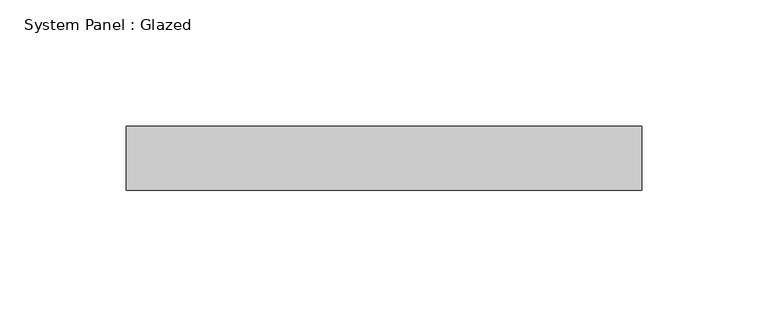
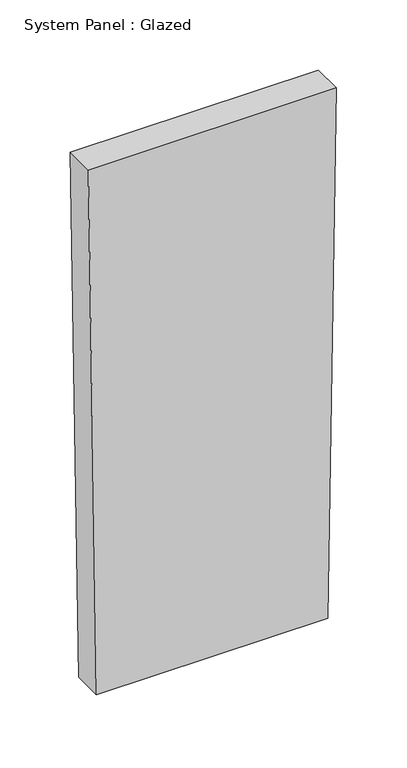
"""IFC4 building model written with IfcOpenShell, lengths in millimetres: plate geometry, System Panel : Glazed."""

from ifc_helpers import new_model, si_unit, frame, origin, place, context, project, spatial, polyline, outline, extrude, source, transform, mapped, element, save


def system_panel_glazed_f797c5b5(model_context):
    return source(origin(), model_context, "Body", "SweptSolid", [
        extrude(outline(polyline([(0.0, -95.1349711), (0.0, 95.1349711), (458.5517789, 102.0326343), (458.5517789, -102.0326343), (0.0, -95.1349711)])), frame((0.0, -44.45, 0.0), z_axis=(0.0, 1.0, 0.0), x_axis=(0.0, 0.0, 1.0)), (0.0, 0.0, 1.0), 25.4),
    ])


if __name__ == "__main__":
    model = new_model("IFC4")
    model_context = context("Model", 3, world=origin())
    ifc_project = project(units=[si_unit("LENGTHUNIT", "METRE", prefix="MILLI")], contexts=[model_context])
    site = spatial("IfcSite", under=ifc_project)
    building = spatial("IfcBuilding", under=site)
    placement = place(None, origin())
    system_panel_glazed_shape = system_panel_glazed_f797c5b5(model_context)
    element("IfcPlate", 1, ObjectType="System Panel : Glazed", at=placement, inside=building, context=model_context, shape_type="MappedRepresentation", body=[
        mapped(system_panel_glazed_shape, transform((0.0, 0.0, 0.0), x_axis=(1.0, 0.0, 0.0), y_axis=(0.0, 1.0, 0.0), z_axis=(0.0, 0.0, 1.0))),
    ])
    save(model, "model.ifc")
